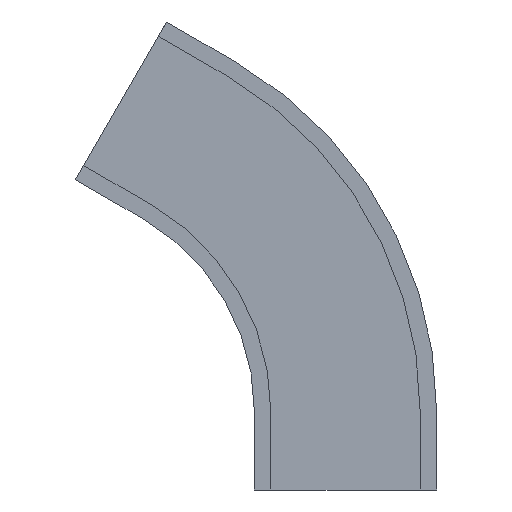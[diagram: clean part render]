
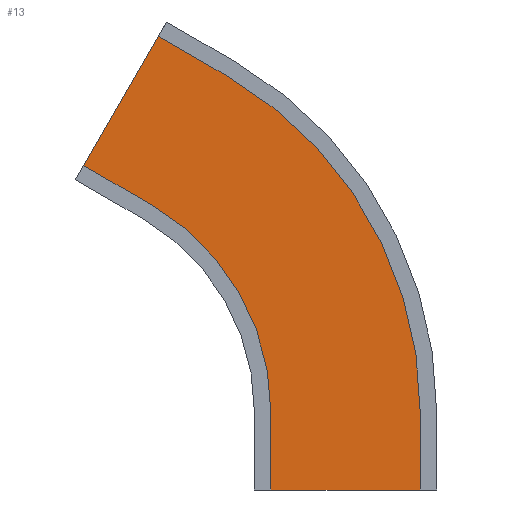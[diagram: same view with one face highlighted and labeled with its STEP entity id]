
A CAD part, front view. The second image highlights one B-rep face of the part: STEP entity #13.
In plain terms, the highlighted planar face has unit normal (0, -1, 0).
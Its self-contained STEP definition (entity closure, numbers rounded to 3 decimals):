
#13 = ADVANCED_FACE ( 'NONE', ( #1577 ), #507, .F. ) ;
#68 = CARTESIAN_POINT ( 'NONE',  ( 495.25, -68., 0. ) ) ;
#75 = CARTESIAN_POINT ( 'NONE',  ( 152.375, -68., 263.921 ) ) ;
#78 = CARTESIAN_POINT ( 'NONE',  ( 304.75, -68., 0. ) ) ;
#79 = CARTESIAN_POINT ( 'NONE',  ( 304.75, -68., -100. ) ) ;
#80 = CARTESIAN_POINT ( 'NONE',  ( 161.022, -68., 478.899 ) ) ;
#81 = CARTESIAN_POINT ( 'NONE',  ( 247.625, -68., 428.899 ) ) ;
#82 = CARTESIAN_POINT ( 'NONE',  ( 65.772, -68., 313.921 ) ) ;
#85 = CARTESIAN_POINT ( 'NONE',  ( 495.25, -68., -100. ) ) ;
#199 = CARTESIAN_POINT ( 'NONE',  ( 161.022, -68., 478.899 ) ) ;
#204 = CARTESIAN_POINT ( 'NONE',  ( -86.603, -68., 50. ) ) ;
#209 = CARTESIAN_POINT ( 'NONE',  ( 304.75, -68., -100. ) ) ;
#211 = DIRECTION ( 'NONE',  ( 0.866, 0., -0.5 ) ) ;
#212 = CARTESIAN_POINT ( 'NONE',  ( 0., -68., -100. ) ) ;
#213 = DIRECTION ( 'NONE',  ( 0.5, 0., 0.866 ) ) ;
#214 = CARTESIAN_POINT ( 'NONE',  ( 65.772, -68., 313.921 ) ) ;
#215 = DIRECTION ( 'NONE',  ( 0.866, 0., -0.5 ) ) ;
#216 = DIRECTION ( 'NONE',  ( 0., 0., 1. ) ) ;
#218 = DIRECTION ( 'NONE',  ( -1., 0., 0. ) ) ;
#219 = CARTESIAN_POINT ( 'NONE',  ( 495.25, -68., -100. ) ) ;
#220 = DIRECTION ( 'NONE',  ( 0., 0., 1. ) ) ;
#446 = CIRCLE ( 'NONE', #1915, 304.75 ) ;
#455 = CIRCLE ( 'NONE', #1916, 495.25 ) ;
#505 = CARTESIAN_POINT ( 'NONE',  ( 152.375, -68., 263.921 ) ) ;
#507 = PLANE ( 'NONE',  #1843 ) ;
#509 = DIRECTION ( 'NONE',  ( 0., 1., 0. ) ) ;
#510 = DIRECTION ( 'NONE',  ( -1., 0., 0. ) ) ;
#900 = CARTESIAN_POINT ( 'NONE',  ( 0., -68., 0. ) ) ;
#901 = DIRECTION ( 'NONE',  ( 0., 1., 0. ) ) ;
#902 = DIRECTION ( 'NONE',  ( -1., 0., 0. ) ) ;
#909 = CARTESIAN_POINT ( 'NONE',  ( 0., -68., 0. ) ) ;
#910 = DIRECTION ( 'NONE',  ( 0., 1., 0. ) ) ;
#911 = DIRECTION ( 'NONE',  ( -1., 0., 0. ) ) ;
#957 = ORIENTED_EDGE ( 'NONE', *, *, #1830, .F. ) ;
#958 = ORIENTED_EDGE ( 'NONE', *, *, #1409, .F. ) ;
#959 = ORIENTED_EDGE ( 'NONE', *, *, #1410, .F. ) ;
#960 = ORIENTED_EDGE ( 'NONE', *, *, #1411, .T. ) ;
#961 = ORIENTED_EDGE ( 'NONE', *, *, #1825, .T. ) ;
#962 = ORIENTED_EDGE ( 'NONE', *, *, #1412, .F. ) ;
#963 = ORIENTED_EDGE ( 'NONE', *, *, #1413, .F. ) ;
#964 = ORIENTED_EDGE ( 'NONE', *, *, #1414, .T. ) ;
#1298 = VERTEX_POINT ( 'NONE', #68 ) ;
#1305 = VERTEX_POINT ( 'NONE', #75 ) ;
#1308 = VERTEX_POINT ( 'NONE', #78 ) ;
#1309 = VERTEX_POINT ( 'NONE', #79 ) ;
#1310 = VERTEX_POINT ( 'NONE', #80 ) ;
#1311 = VERTEX_POINT ( 'NONE', #81 ) ;
#1312 = VERTEX_POINT ( 'NONE', #82 ) ;
#1315 = VERTEX_POINT ( 'NONE', #85 ) ;
#1409 = EDGE_CURVE ( 'NONE', #1310, #1311, #1693, .T. ) ;
#1410 = EDGE_CURVE ( 'NONE', #1312, #1310, #1699, .T. ) ;
#1411 = EDGE_CURVE ( 'NONE', #1312, #1305, #1703, .T. ) ;
#1412 = EDGE_CURVE ( 'NONE', #1309, #1308, #1701, .T. ) ;
#1413 = EDGE_CURVE ( 'NONE', #1315, #1309, #1705, .T. ) ;
#1414 = EDGE_CURVE ( 'NONE', #1315, #1298, #1709, .T. ) ;
#1536 = EDGE_LOOP ( 'NONE', ( #957, #958, #959, #960, #961, #962, #963, #964 ) ) ;
#1577 = FACE_OUTER_BOUND ( 'NONE', #1536, .T. ) ;
#1693 = LINE ( 'NONE', #199, #1702 ) ;
#1699 = LINE ( 'NONE', #204, #1704 ) ;
#1701 = LINE ( 'NONE', #209, #1708 ) ;
#1702 = VECTOR ( 'NONE', #211, 1000. ) ;
#1703 = LINE ( 'NONE', #214, #1706 ) ;
#1704 = VECTOR ( 'NONE', #213, 1000. ) ;
#1705 = LINE ( 'NONE', #212, #1710 ) ;
#1706 = VECTOR ( 'NONE', #215, 1000. ) ;
#1708 = VECTOR ( 'NONE', #216, 1000. ) ;
#1709 = LINE ( 'NONE', #219, #1712 ) ;
#1710 = VECTOR ( 'NONE', #218, 1000. ) ;
#1712 = VECTOR ( 'NONE', #220, 1000. ) ;
#1825 = EDGE_CURVE ( 'NONE', #1305, #1308, #446, .T. ) ;
#1830 = EDGE_CURVE ( 'NONE', #1311, #1298, #455, .T. ) ;
#1843 = AXIS2_PLACEMENT_3D ( 'NONE', #505, #509, #510 ) ;
#1915 = AXIS2_PLACEMENT_3D ( 'NONE', #900, #901, #902 ) ;
#1916 = AXIS2_PLACEMENT_3D ( 'NONE', #909, #910, #911 ) ;
